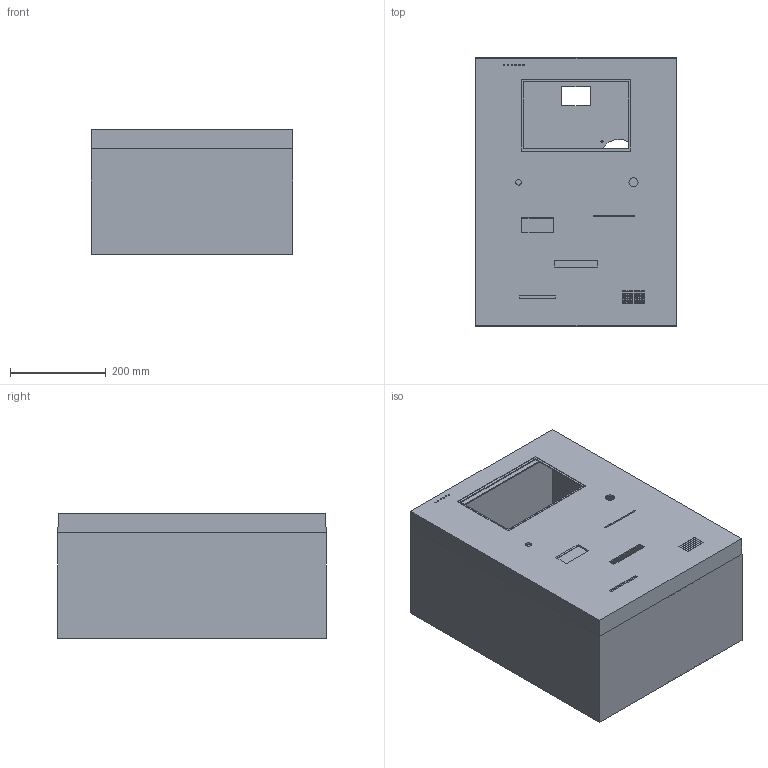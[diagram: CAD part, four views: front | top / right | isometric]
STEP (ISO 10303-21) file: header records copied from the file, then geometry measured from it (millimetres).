
FILE_DESCRIPTION(('Open CASCADE Model'),'2;1');
FILE_NAME('Open CASCADE Shape Model','2026-09-13T22:17:07',('Author'),( 'Open CASCADE'),'Open CASCADE STEP processor 7.9','Open CASCADE 7.9' ,'Unknown');
FILE_SCHEMA(('AUTOMOTIVE_DESIGN { 1 0 10303 214 1 1 1 1 }'));
Length unit declared in the file: millimetre
Products named in the file (3): money_roll_assembly; fascia; chassis
Assembly tree (2 placements, depth 2):
  money_roll_assembly
    fascia
    chassis
Bounding box: 420 x 560 x 260 mm (x, y, z)
Volume: 2618561.9 mm3; surface area: 2023102 mm2
Topology: 4 solids, 4 shells, 427 faces, 1173 edges, 782 vertices
Faces by surface type: plane 325, cylinder 102
Full cylindrical faces by diameter (mm): 2.5 x60, 3 x6, 3.4 x4, 4.5 x8, 5.6 x6, 6 x4, 10 x10, 12 x1, 19 x1, 80 x2
Entity records: 29365 total; most frequent: CARTESIAN_POINT 7032, DIRECTION 3712, ORIENTED_EDGE 2346, PCURVE 2346, DEFINITIONAL_REPRESENTATION 2346, LINE 2142, VECTOR 2142, EDGE_CURVE 1173
